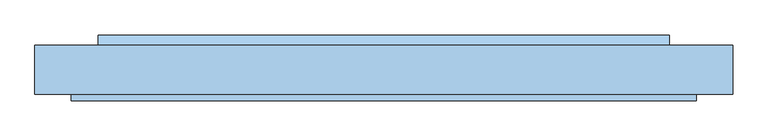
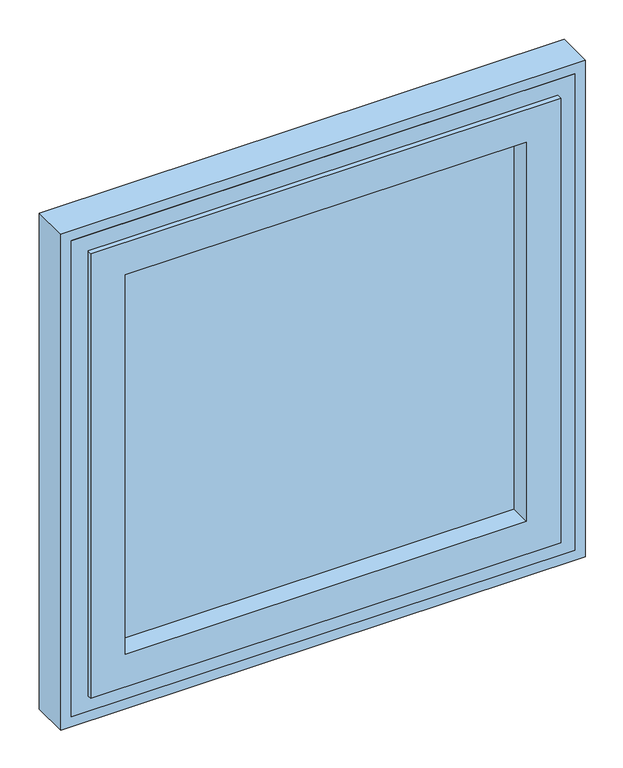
"""IFC4 building model written with IfcOpenShell, lengths in millimetres: window geometry, Окно.Alumark_одностворчатое_S70 : 960х960 (левое-откидное)."""

from ifc_helpers import new_model, si_unit, frame, origin, place, context, project, spatial, polyline, outline, extrude, faceted_brep, source, transform, mapped, element, save


def window_8f1ec51b(model_context):
    return source(origin(), model_context, "Body", "SolidModel", [
        faceted_brep([(448.0, 21.0, 952.0), (448.0, 30.0, 952.0), (448.0, 30.0, 1848.0), (448.0, 21.0, 1848.0), (417.0, 91.0, 983.0), (417.0, 100.0, 983.0), (417.0, 100.0, 1817.0), (417.0, 91.0, 1817.0), (382.0, 100.0, 1018.0), (382.0, 21.0, 1018.0), (382.0, 21.0, 1782.0), (382.0, 100.0, 1782.0), (-448.0, 30.0, 1848.0), (-448.0, 21.0, 1848.0), (-448.0, 30.0, 952.0), (-448.0, 21.0, 952.0), (-417.0, 91.0, 983.0), (-417.0, 100.0, 983.0), (-382.0, 100.0, 1018.0), (-382.0, 21.0, 1018.0), (-417.0, 100.0, 1817.0), (-417.0, 91.0, 1817.0), (-382.0, 21.0, 1782.0), (-382.0, 100.0, 1782.0), (-423.0, 91.0, 977.0), (-423.0, 91.0, 1823.0), (423.0, 91.0, 1823.0), (423.0, 91.0, 977.0), (-423.0, 30.0, 977.0), (423.0, 30.0, 977.0), (423.0, 30.0, 1823.0), (-423.0, 30.0, 1823.0)], [[[0, 1, 2, 3]], [[4, 5, 6, 7]], [[8, 9, 10, 11]], [[3, 2, 12, 13]], [[13, 12, 14, 15]], [[15, 14, 1, 0]], [[16, 17, 5, 4]], [[18, 19, 9, 8]], [[7, 6, 20, 21]], [[11, 10, 22, 23]], [[17, 20, 6, 5], [8, 11, 23, 18]], [[21, 20, 17, 16]], [[24, 25, 26, 27], [4, 7, 21, 16]], [[23, 22, 19, 18]], [[0, 3, 13, 15], [19, 22, 10, 9]], [[28, 24, 27, 29]], [[29, 27, 26, 30]], [[30, 26, 25, 31]], [[14, 12, 2, 1], [29, 30, 31, 28]], [[31, 25, 24, 28]]]),
        extrude(outline(polyline([(382.0, 61.0), (-382.0, 61.0), (-382.0, 91.0), (382.0, 91.0), (382.0, 61.0)])), frame((0.0, 0.0, 1018.0), z_axis=(0.0, 0.0, 1.0), x_axis=(1.0, 0.0, 0.0)), (0.0, 0.0, 1.0), 764.0),
        extrude(outline(polyline([(115.0, 983.0), (100.0, 983.0), (100.0, 995.5), (115.0, 988.0), (115.0, 983.0)])), frame((-409.0, 0.0, 0.0), z_axis=(1.0, 0.0, 0.0), x_axis=(0.0, 1.0, 0.0)), (0.0, 0.0, 1.0), 818.0),
        extrude(outline(polyline([(1880.0, -480.0), (920.0, -480.0), (920.0, 480.0), (1880.0, 480.0), (1880.0, -480.0)]), holes=[polyline([(1823.0, 423.0), (977.0, 423.0), (977.0, -423.0), (1823.0, -423.0), (1823.0, 423.0)])]), frame((0.0, 30.0, 0.0), z_axis=(0.0, 1.0, 0.0), x_axis=(0.0, 0.0, 1.0)), (0.0, 0.0, 1.0), 70.0),
        extrude(outline(polyline([(1900.0, 500.0), (1900.0, -500.0), (900.0, -500.0), (900.0, 500.0), (1900.0, 500.0)]), holes=[polyline([(920.0, -480.0), (1880.0, -480.0), (1880.0, 480.0), (920.0, 480.0), (920.0, -480.0)])]), frame((0.0, 30.0, 0.0), z_axis=(0.0, 1.0, 0.0), x_axis=(0.0, 0.0, 1.0)), (0.0, 0.0, 1.0), 70.0),
    ])


if __name__ == "__main__":
    model = new_model("IFC4")
    model_context = context("Model", 3, world=origin())
    ifc_project = project(units=[si_unit("LENGTHUNIT", "METRE", prefix="MILLI")], contexts=[model_context])
    site = spatial("IfcSite", under=ifc_project)
    building = spatial("IfcBuilding", under=site)
    placement = place(None, origin())
    window_shape = window_8f1ec51b(model_context)
    element("IfcWindow", 1, ObjectType="Окно.Alumark_одностворчатое_S70 : 960х960 (левое-откидное)", at=placement, inside=building, context=model_context, shape_type="MappedRepresentation", body=[
        mapped(window_shape, transform((0.0, 0.0, 0.0), x_axis=(1.0, 0.0, 0.0), y_axis=(0.0, 1.0, 0.0), z_axis=(0.0, 0.0, 1.0))),
    ])
    save(model, "model.ifc")
